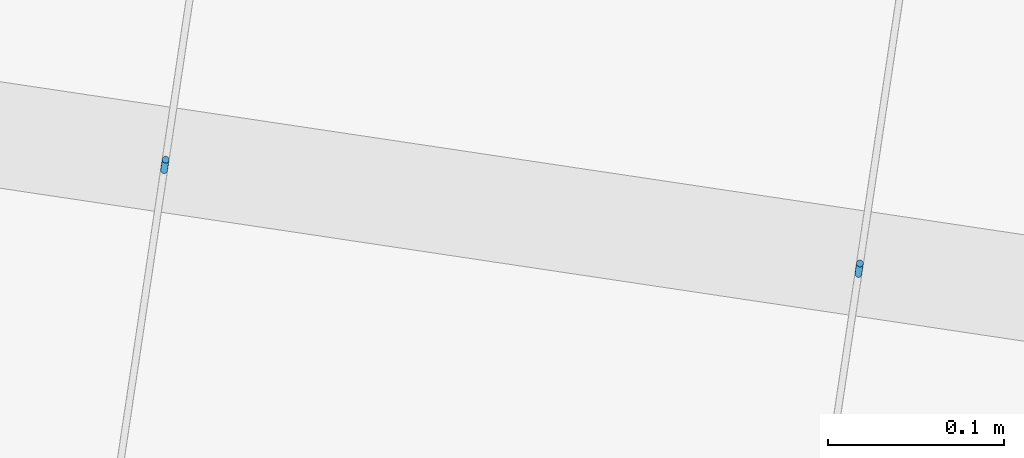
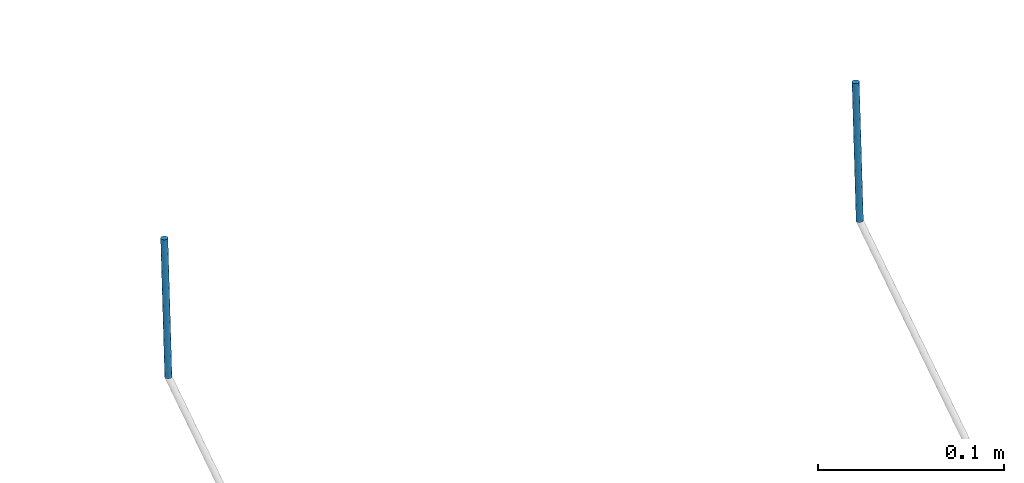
# One storey, part 123 of 142: 2 members, 1 element without a shape of its own.
"""IFC4 building model written with IfcOpenShell, lengths in metres."""

from ifc_helpers import new_model, si_unit, direction, frame, origin_with_axes, place, context, subcontext, project, spatial, circle, extrude, material, material_profile, profile_set, profile_usage, type_object, element, aggregate, save


model = new_model("IFC4")

# Units and contexts
model_context = context("Model", 3, precision=1e-05, world=origin_with_axes(), true_north=direction((0.0, 1.0)))
body_context = subcontext(model_context, "Body", "Model", "MODEL_VIEW")
ifc_project = project(units=[si_unit("VOLUMEUNIT", "CUBIC_METRE"), si_unit("LENGTHUNIT", "METRE"), si_unit("AREAUNIT", "SQUARE_METRE")], contexts=[model_context])

# Site, building, storey
site_placement = place(None, origin_with_axes())
site = spatial("IfcSite", under=ifc_project, at=site_placement, Name="Lares · Rua das Mercês · artigo 4771")
building_placement = place(site_placement, frame((12.0, 10.2, 13.9), z_axis=(0.0, 0.0, 1.0), x_axis=(0.989015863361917, -0.147809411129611, 0.0)))
building = spatial("IfcBuilding", under=site, at=building_placement, Name="Casa Sobreposta")
storey_placement = place(building_placement, origin_with_axes())
storey = spatial("IfcBuildingStorey", under=building, at=storey_placement, Name="00 · Habitação e estacionamento", Elevation=13.9)

# Assembly, members
assembly_placement = place(storey_placement, origin_with_axes())
assembly = element("IfcElementAssembly", 1, at=assembly_placement, inside=storey, Name="Pérgola · prolongamento da estufa 6 m", ObjectType="PERGOLA_GREENHOUSE_EXTENSION", PredefinedType="USERDEFINED")
ifc_material = material(Name="Aço galvanizado / Stahl verzinkt", Category="steel")
ifc_material_profile = material_profile(ifc_material, circle(Radius=0.002))
ifc_profile_set = profile_set([ifc_material_profile], Name="D0.004")
ifc_profile_usage_1 = profile_usage(ifc_profile_set)
member_type = type_object("IfcMemberType", Name="D0.004 / galvanized", PredefinedType="NOTDEFINED", material=ifc_profile_set)
member_1_placement = place(assembly_placement, frame((-0.599999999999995, 1.21440957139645, 7.21329402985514), z_axis=(0.0, 0.0686229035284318, 0.997642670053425), x_axis=(1.0, 0.0, 0.0)))
member_1 = element("IfcMember", 2, at=member_1_placement, type_object=member_type, material=ifc_profile_usage_1, Name="Pérgola · fio para trepadeiras", context=body_context, shape_type="SweptSolid", body=[
    extrude(circle(Radius=0.002), origin_with_axes(), (0.0, 0.0, 1.0), 0.0875893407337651),
])
ifc_profile_usage_2 = profile_usage(ifc_profile_set)
member_2_placement = place(assembly_placement, frame((-0.199999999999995, 1.21440957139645, 7.21329402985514), z_axis=(0.0, 0.0686229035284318, 0.997642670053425), x_axis=(1.0, 0.0, 0.0)))
member_2 = element("IfcMember", 3, at=member_2_placement, type_object=member_type, material=ifc_profile_usage_2, Name="Pérgola · fio para trepadeiras", context=body_context, shape_type="SweptSolid", body=[
    extrude(circle(Radius=0.002), origin_with_axes(), (0.0, 0.0, 1.0), 0.0875893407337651),
])
aggregate(assembly, [member_1, member_2])

save(model, "model.ifc")
